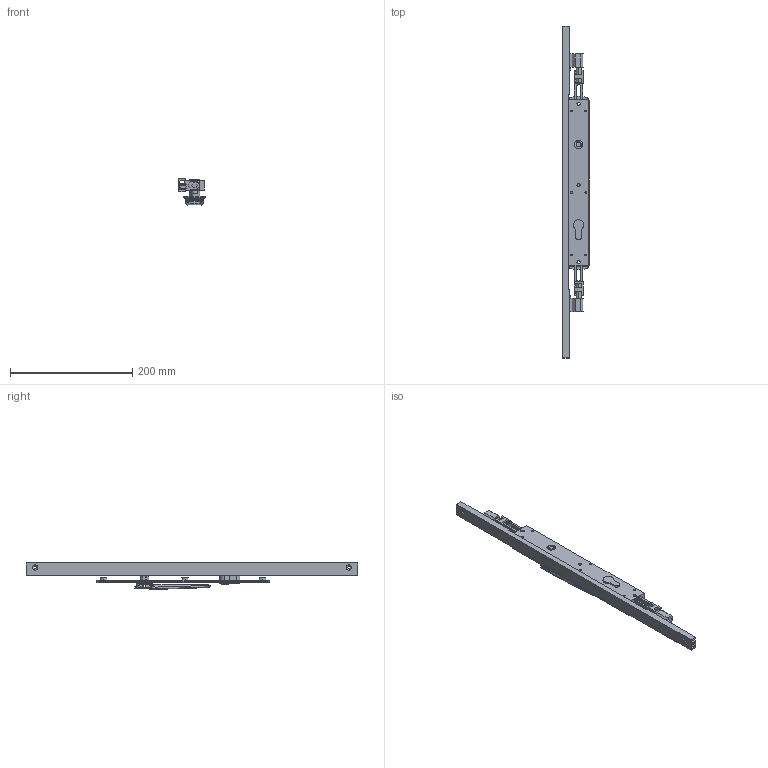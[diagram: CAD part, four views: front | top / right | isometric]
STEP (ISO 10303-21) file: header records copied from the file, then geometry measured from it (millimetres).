
FILE_DESCRIPTION (( 'STEP AP214' ), '1' );
FILE_NAME ('TPL-W-APC-609-L 28Oct2024.STEP', '2024-10-28T03:18:11', ( '' ), ( '' ), 'SwSTEP 2.0', 'SolidWorks 2023', '' );
FILE_SCHEMA (( 'AUTOMOTIVE_DESIGN' ));
Length unit declared in the file: millimetre
Products named in the file (19): Copy of COV-115-C Cover C suit TPLGen2 standard range AU^TPL-W-APC-109 18Oct2024; Copy of TPLGen2 push rod - simplified^Copy of TPLGen2 lock body keyed assembly_TPL-W-APC-109 18Oct2024_Female thread M10; Copy of Copy of LKC-531 Lock twinpoint transmission rod wood system^TPL-W-APC-109 18Oct2024_Standard Range 2891.7mm; Copy of TPGen2 handle keyed internal zinc - simplified^TPL-W-APC-109 18Oct2024_Vertical; Copy of LKC-512 Escutcheon plate keyed internal 285mm long zinc - simplified^Copy of TPGen2 handle keyed internal zinc - simplified_TPL-W-APC-109 18Oct2024; Copy of COV-115-A Cover A suit TPLGen2 standard range AU with hinge holes^TPL-W-APC-109 18Oct2024_2870mm; Bolt.step; Copy of COV-115-B Cover B suit TPLGen2 standard range AU with hinge holes^TPL-W-APC-109 18Oct2024_2870mm; Copy of TPL-022 Lock cylinder single 3 pin 23mm^TPL-W-APC-109 18Oct2024_Right; Copy of LKC-505 Swing handle zinc - simplified^Copy of TPGen2 handle keyed internal zinc - simplified_TPL-W-APC-109 18Oct2024; Copy of Adapter D - simplfied^TPL-W-APC-109 18Oct2024; Copy of LKC-586 Spindle square 8mm with M4 hole^Copy of TPGen2 handle keyed internal zinc - simplified_TPL-W-APC-109 18Oct2024_25mm; Copy of LKC-585 Rotator body zinc^Copy of TPGen2 handle keyed internal zinc - simplified_TPL-W-APC-109 18Oct2024; Copy of LKC-584 Pivot body zinc - simplified^Copy of TPGen2 handle keyed internal zinc - simplified_TPL-W-APC-109 18Oct2024; TPL-W-APC-609-L 28Oct2024; Copy of TPLGen2 lock body keyed assembly^TPL-W-APC-109 18Oct2024_Bolts extended; Copy of Copy of Copy of LKC-531 Lock twinpoint transmission rod wood system^TPL-W-APC-109 18Oct2024_Standard Range 2891.7mm; Copy of TPLGen2 lock body keyed^Copy of TPLGen2 lock body keyed assembly_TPL-W-APC-109 18Oct2024; Copy of Adapter C - simplfied^TPL-W-APC-109 18Oct2024
Assembly tree (16 placements, depth 3):
  Copy of COV-115-A Cover A suit TPLGen2 standard range AU with hinge holes^TPL-W-APC-109 18Oct2024_2870mm
  Bolt.step
  Copy of COV-115-B Cover B suit TPLGen2 standard range AU with hinge holes^TPL-W-APC-109 18Oct2024_2870mm
  TPL-W-APC-609-L 28Oct2024
    Copy of TPLGen2 lock body keyed assembly^TPL-W-APC-109 18Oct2024_Bolts extended
      Copy of TPLGen2 lock body keyed^Copy of TPLGen2 lock body keyed assembly_TPL-W-APC-109 18Oct2024
      Copy of TPLGen2 push rod - simplified^Copy of TPLGen2 lock body keyed assembly_TPL-W-APC-109 18Oct2024_Female thread M10  x2
    Copy of TPGen2 handle keyed internal zinc - simplified^TPL-W-APC-109 18Oct2024_Vertical
      Copy of LKC-512 Escutcheon plate keyed internal 285mm long zinc - simplified^Copy of TPGen2 handle keyed internal zinc - simplified_TPL-W-APC-109 18Oct2024
      Copy of LKC-505 Swing handle zinc - simplified^Copy of TPGen2 handle keyed internal zinc - simplified_TPL-W-APC-109 18Oct2024
      Copy of LKC-585 Rotator body zinc^Copy of TPGen2 handle keyed internal zinc - simplified_TPL-W-APC-109 18Oct2024
      Copy of LKC-586 Spindle square 8mm with M4 hole^Copy of TPGen2 handle keyed internal zinc - simplified_TPL-W-APC-109 18Oct2024_25mm
      Copy of LKC-584 Pivot body zinc - simplified^Copy of TPGen2 handle keyed internal zinc - simplified_TPL-W-APC-109 18Oct2024
    Copy of TPL-022 Lock cylinder single 3 pin 23mm^TPL-W-APC-109 18Oct2024_Right
    Copy of COV-115-C Cover C suit TPLGen2 standard range AU^TPL-W-APC-109 18Oct2024
    Copy of Copy of LKC-531 Lock twinpoint transmission rod wood system^TPL-W-APC-109 18Oct2024_Standard Range 2891.7mm
    Copy of Copy of Copy of LKC-531 Lock twinpoint transmission rod wood system^TPL-W-APC-109 18Oct2024_Standard Range 2891.7mm
    Copy of Adapter C - simplfied^TPL-W-APC-109 18Oct2024
    Copy of Adapter D - simplfied^TPL-W-APC-109 18Oct2024
Bounding box: 43.5 x 544 x 42.86 mm (x, y, z)
Volume: 274844.5 mm3; surface area: 132512.3 mm2
Topology: 14 solids, 14 shells, 912 faces, 2266 edges, 1412 vertices
Faces by surface type: plane 321, bspline 241, cylinder 225, cone 71, torus 46, sphere 8
Entity records: 32807 total; most frequent: CARTESIAN_POINT 13002, ORIENTED_EDGE 4340, DIRECTION 3577, EDGE_CURVE 2170, VERTEX_POINT 1352, AXIS2_PLACEMENT_3D 1317, EDGE_LOOP 976, LINE 943
